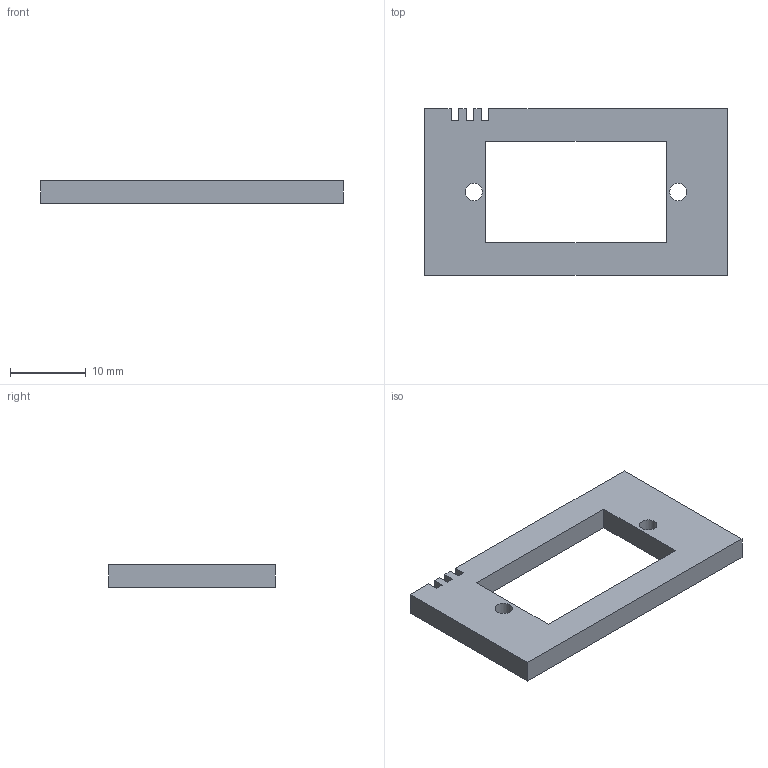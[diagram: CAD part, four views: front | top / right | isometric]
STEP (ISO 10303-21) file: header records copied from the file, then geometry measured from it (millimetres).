
FILE_DESCRIPTION(('Open CASCADE Model'),'2;1');
FILE_NAME('Open CASCADE Shape Model','2026-10-26T16:19:27',('Author'),( 'Open CASCADE'),'Open CASCADE STEP processor 7.8','Open CASCADE 7.8' ,'Unknown');
FILE_SCHEMA(('AUTOMOTIVE_DESIGN { 1 0 10303 214 1 1 1 1 }'));
Length unit declared in the file: millimetre
Products named in the file (1): Open CASCADE STEP translator 7.8 3
Bounding box: 40 x 22 x 3 mm (x, y, z)
Volume: 1644.8 mm3; surface area: 1762.1 mm2
Topology: 1 solids, 1 shells, 24 faces, 66 edges, 44 vertices
Faces by surface type: plane 22, cylinder 2
Full cylindrical faces by diameter (mm): 2.3 x2
Entity records: 1570 total; most frequent: CARTESIAN_POINT 331, DIRECTION 188, ORIENTED_EDGE 132, PCURVE 132, DEFINITIONAL_REPRESENTATION 132, LINE 126, VECTOR 126, EDGE_CURVE 66
